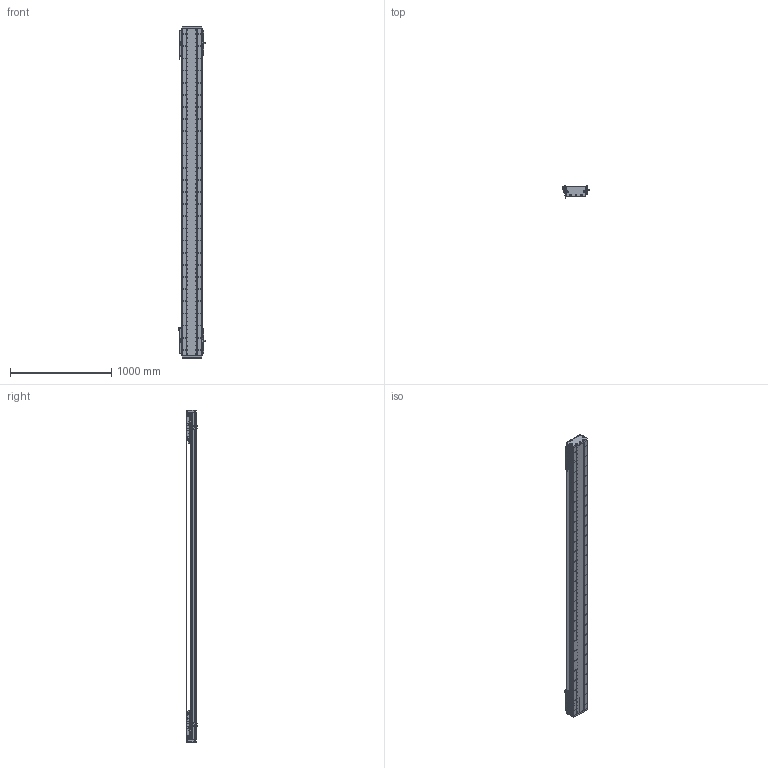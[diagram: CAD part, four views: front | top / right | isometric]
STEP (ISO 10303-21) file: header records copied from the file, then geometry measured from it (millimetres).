
FILE_DESCRIPTION (( 'STEP AP203' ), '1' );
FILE_NAME ('DA-C195-2-C3-T2660-C010-0.2 眻盄萇儂.STEP', '2025-08-15T00:51:32', ( '' ), ( '' ), 'SwSTEP 2.0', 'SolidWorks 2019', '' );
FILE_SCHEMA (( 'CONFIG_CONTROL_DESIGN' ));
Length unit declared in the file: millimetre
Products named in the file (19): DA165-GYP-00 光电感应片(默认); CU195-C3賑輸-俋楷; IU-CU195-L 菁釱絳寢; DA95-HXJ-00 遣喳砎蝶; DKW-GYP-ZJ-00 笢潔嫖萇覜茼え; DA195詩湍菜輸; DA195詩湍嶺輸; IU-CU195-L-00 菁釱(L3240); PM-T45ㄗ侂狟ㄘ; MS200 棠掑喜S315-T240; DA195詩湍郪璃; DA-C195-2-C3-T2660-C010-0.2 眻盄萇儂; LMT黍杅芛; DKW168-HXJ-ZJ-00 笢潔滅袉砎蝶; PM-Y65嫖萇羲壽郪璃; DKW-KGZ-ZJ-00 中间光电开关支架; DA-C195-GD-DB-H-00 傷啣; 葩璃 DA95-GT-T-00; DA195詩湍裔啣
Assembly tree (37 placements, depth 3):
  DA-C195-2-C3-T2660-C010-0.2 眻盄萇儂
    DA195詩湍郪璃
      DA195詩湍菜輸  x2
      DA195詩湍裔啣
      DA195詩湍嶺輸  x2
      DA95-HXJ-00 遣喳砎蝶  x8
      DA-C195-GD-DB-H-00 傷啣  x2
    IU-CU195-L 菁釱絳寢
      IU-CU195-L-00 菁釱(L3240)
      葩璃 DA95-GT-T-00  x4
    LMT黍杅芛  x2
    MS200 棠掑喜S315-T240
    PM-T45ㄗ侂狟ㄘ  x4
    DA165-GYP-00 光电感应片(默认)  x2
    PM-Y65嫖萇羲壽郪璃
    DKW168-HXJ-ZJ-00 笢潔滅袉砎蝶
    DKW-GYP-ZJ-00 笢潔嫖萇覜茼え
    DKW-KGZ-ZJ-00 中间光电开关支架
    CU195-C3賑輸-俋楷  x2
Bounding box: 258.2 x 115.45 x 3280 mm (x, y, z)
Volume: 20346286.2 mm3; surface area: 5902335.9 mm2
Topology: 154 solids, 218 shells, 7159 faces, 19455 edges, 12165 vertices
Faces by surface type: cylinder 3546, plane 2561, cone 884, torus 88, sphere 72, bspline 8
Entity records: 163585 total; most frequent: CARTESIAN_POINT 45433, ORIENTED_EDGE 24926, DIRECTION 23400, EDGE_CURVE 12463, AXIS2_PLACEMENT_3D 8641, VERTEX_POINT 8090, VECTOR 6118, LINE 6118
